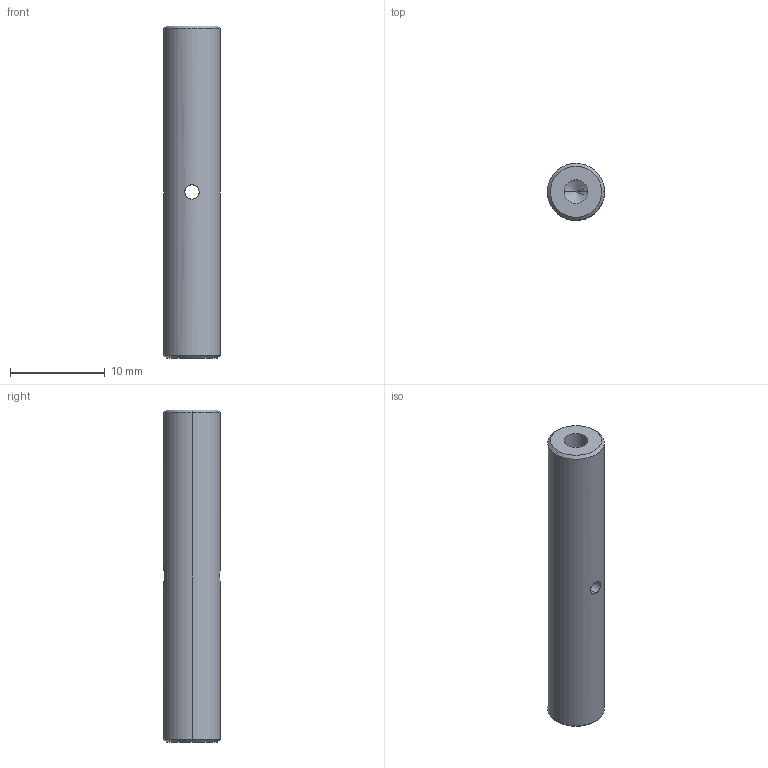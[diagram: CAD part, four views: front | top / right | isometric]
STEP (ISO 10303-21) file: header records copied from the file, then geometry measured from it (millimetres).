
FILE_DESCRIPTION (( 'STEP AP203' ), '1' );
FILE_NAME ('PHSP6-2A.step', '2019-05-09T09:09:00', ( '' ), ( '' ), 'SwSTEP 2.0', 'SolidWorks 2016', '' );
FILE_SCHEMA (( 'CONFIG_CONTROL_DESIGN' ));
Length unit declared in the file: millimetre
Products named in the file (1): PHSP6-2A
Bounding box: 6 x 6 x 35 mm (x, y, z)
Volume: 891.5 mm3; surface area: 868.8 mm2
Topology: 1 solids, 1 shells, 18 faces, 40 edges, 22 vertices
Faces by surface type: cylinder 8, cone 8, plane 2
Entity records: 597 total; most frequent: CARTESIAN_POINT 133, DIRECTION 86, ORIENTED_EDGE 72, EDGE_CURVE 36, AXIS2_PLACEMENT_3D 35, EDGE_LOOP 22, VERTEX_POINT 22, ADVANCED_FACE 18
